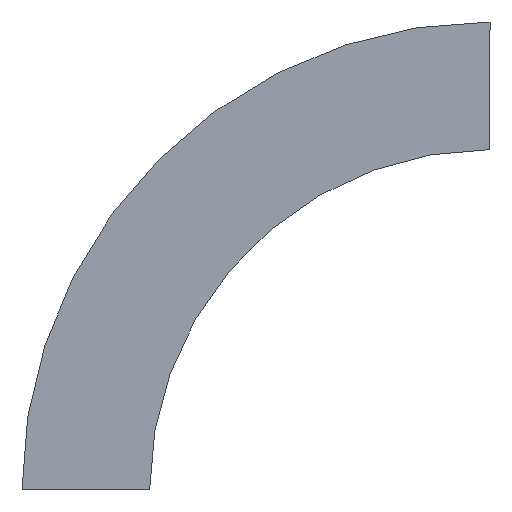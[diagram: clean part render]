
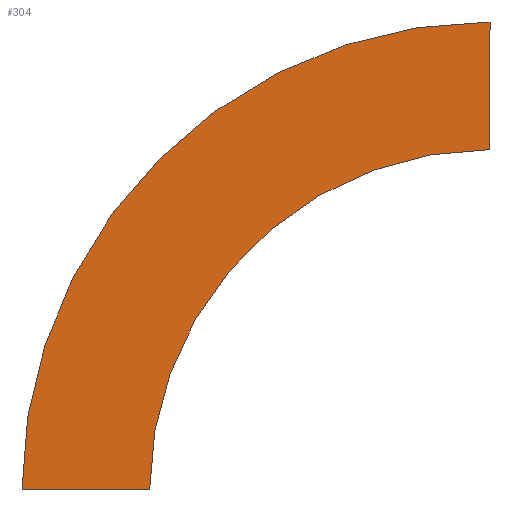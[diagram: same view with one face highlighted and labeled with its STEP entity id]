
A CAD part, left-side view. The second image highlights one B-rep face of the part: STEP entity #304.
In plain terms, the highlighted planar face has unit normal (-1, 0, 0) as drawn and (1, 0, 0) by its records, which use the part's own axes.
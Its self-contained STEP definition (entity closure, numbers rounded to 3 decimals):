
#31 = EDGE_CURVE ( 'NONE', #572, #170, #354, .T. ) ;
#47 = VECTOR ( 'NONE', #187, 1000. ) ;
#71 = AXIS2_PLACEMENT_3D ( 'NONE', #343, #200, #565 ) ;
#100 = DIRECTION ( 'NONE',  ( 0., 1., 0. ) ) ;
#107 = PLANE ( 'NONE',  #447 ) ;
#117 = LINE ( 'NONE', #519, #267 ) ;
#119 = ORIENTED_EDGE ( 'NONE', *, *, #31, .F. ) ;
#152 = DIRECTION ( 'NONE',  ( 1., 0., 0. ) ) ;
#169 = CARTESIAN_POINT ( 'NONE',  ( 0., -300., 412.5 ) ) ;
#170 = VERTEX_POINT ( 'NONE', #244 ) ;
#187 = DIRECTION ( 'NONE',  ( 0., 1., 0. ) ) ;
#199 = ORIENTED_EDGE ( 'NONE', *, *, #358, .F. ) ;
#200 = DIRECTION ( 'NONE',  ( 1., 0., 0. ) ) ;
#201 = FACE_OUTER_BOUND ( 'NONE', #577, .T. ) ;
#207 = DIRECTION ( 'NONE',  ( 0., 0., 1. ) ) ;
#208 = CARTESIAN_POINT ( 'NONE',  ( 0., 112.5, 0. ) ) ;
#211 = ORIENTED_EDGE ( 'NONE', *, *, #436, .T. ) ;
#222 = CIRCLE ( 'NONE', #448, 412.5 ) ;
#234 = CARTESIAN_POINT ( 'NONE',  ( 0., 0., 0. ) ) ;
#241 = VERTEX_POINT ( 'NONE', #208 ) ;
#244 = CARTESIAN_POINT ( 'NONE',  ( 0., -300., 300. ) ) ;
#267 = VECTOR ( 'NONE', #207, 1000. ) ;
#281 = DIRECTION ( 'NONE',  ( 0., 0., -1. ) ) ;
#304 = ADVANCED_FACE ( 'NONE', ( #201 ), #107, .T. ) ;
#328 = CARTESIAN_POINT ( 'NONE',  ( 0., 0., 0. ) ) ;
#329 = LINE ( 'NONE', #234, #47 ) ;
#343 = CARTESIAN_POINT ( 'NONE',  ( 0., -300., 0. ) ) ;
#354 = CIRCLE ( 'NONE', #71, 300. ) ;
#358 = EDGE_CURVE ( 'NONE', #170, #364, #117, .T. ) ;
#364 = VERTEX_POINT ( 'NONE', #169 ) ;
#403 = CARTESIAN_POINT ( 'NONE',  ( 0., 0., 0. ) ) ;
#436 = EDGE_CURVE ( 'NONE', #572, #241, #329, .T. ) ;
#447 = AXIS2_PLACEMENT_3D ( 'NONE', #328, #516, #281 ) ;
#448 = AXIS2_PLACEMENT_3D ( 'NONE', #468, #152, #100 ) ;
#468 = CARTESIAN_POINT ( 'NONE',  ( 0., -300., 0. ) ) ;
#496 = ORIENTED_EDGE ( 'NONE', *, *, #546, .T. ) ;
#516 = DIRECTION ( 'NONE',  ( 1., 0., 0. ) ) ;
#519 = CARTESIAN_POINT ( 'NONE',  ( 0., -300., 300. ) ) ;
#546 = EDGE_CURVE ( 'NONE', #241, #364, #222, .T. ) ;
#565 = DIRECTION ( 'NONE',  ( 0., 1., 0. ) ) ;
#572 = VERTEX_POINT ( 'NONE', #403 ) ;
#577 = EDGE_LOOP ( 'NONE', ( #496, #199, #119, #211 ) ) ;
